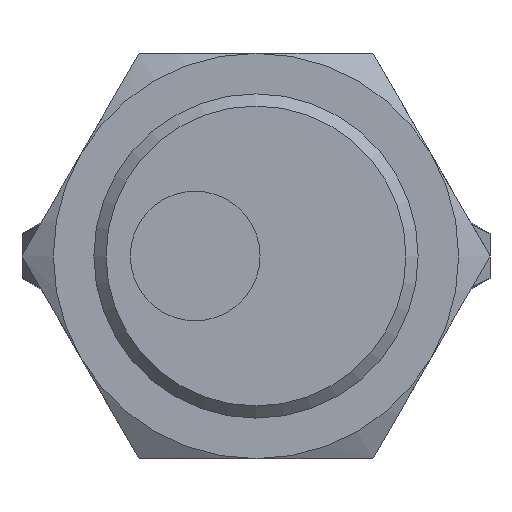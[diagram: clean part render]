
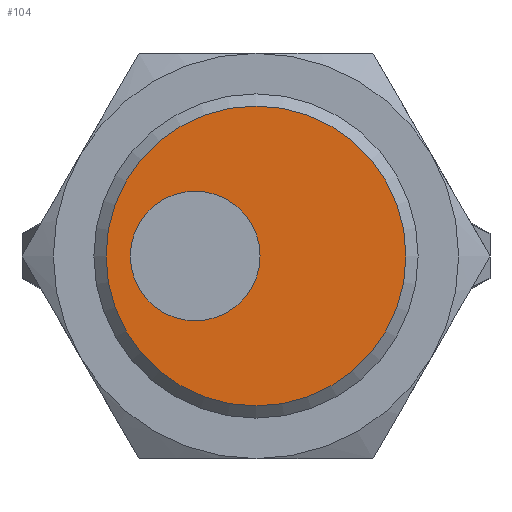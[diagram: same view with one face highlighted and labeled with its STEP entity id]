
A CAD part, left-side view. The second image highlights one B-rep face of the part: STEP entity #104.
In plain terms, the highlighted planar face has unit normal (-1, 0, 0).
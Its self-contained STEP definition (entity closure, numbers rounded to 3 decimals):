
#104 = ADVANCED_FACE( '', ( #141, #142 ), #143, .F. );
#141 = FACE_OUTER_BOUND( '', #214, .T. );
#142 = FACE_BOUND( '', #215, .T. );
#143 = PLANE( '', #216 );
#214 = EDGE_LOOP( '', ( #289 ) );
#215 = EDGE_LOOP( '', ( #290 ) );
#216 = AXIS2_PLACEMENT_3D( '', #291, #292, #293 );
#289 = ORIENTED_EDGE( '', *, *, #488, .T. );
#290 = ORIENTED_EDGE( '', *, *, #489, .F. );
#291 = CARTESIAN_POINT( '', ( -28., 0., 4. ) );
#292 = DIRECTION( '', ( 1., 0., 0. ) );
#293 = DIRECTION( '', ( 0., 0., -1. ) );
#488 = EDGE_CURVE( '', #545, #545, #546, .F. );
#489 = EDGE_CURVE( '', #547, #547, #548, .F. );
#545 = VERTEX_POINT( '', #629 );
#546 = CIRCLE( '', #630, 3.7 );
#547 = VERTEX_POINT( '', #631 );
#548 = CIRCLE( '', #632, 1.6 );
#629 = CARTESIAN_POINT( '', ( -28., 0., -3.7 ) );
#630 = AXIS2_PLACEMENT_3D( '', #839, #840, #841 );
#631 = CARTESIAN_POINT( '', ( -28., 1.5, -1.6 ) );
#632 = AXIS2_PLACEMENT_3D( '', #842, #843, #844 );
#839 = CARTESIAN_POINT( '', ( -28., 0., 0. ) );
#840 = DIRECTION( '', ( 1., 0., 0. ) );
#841 = DIRECTION( '', ( 0., 0., -1. ) );
#842 = CARTESIAN_POINT( '', ( -28., 1.5, 0. ) );
#843 = DIRECTION( '', ( 1., 0., 0. ) );
#844 = DIRECTION( '', ( 0., 0., -1. ) );
